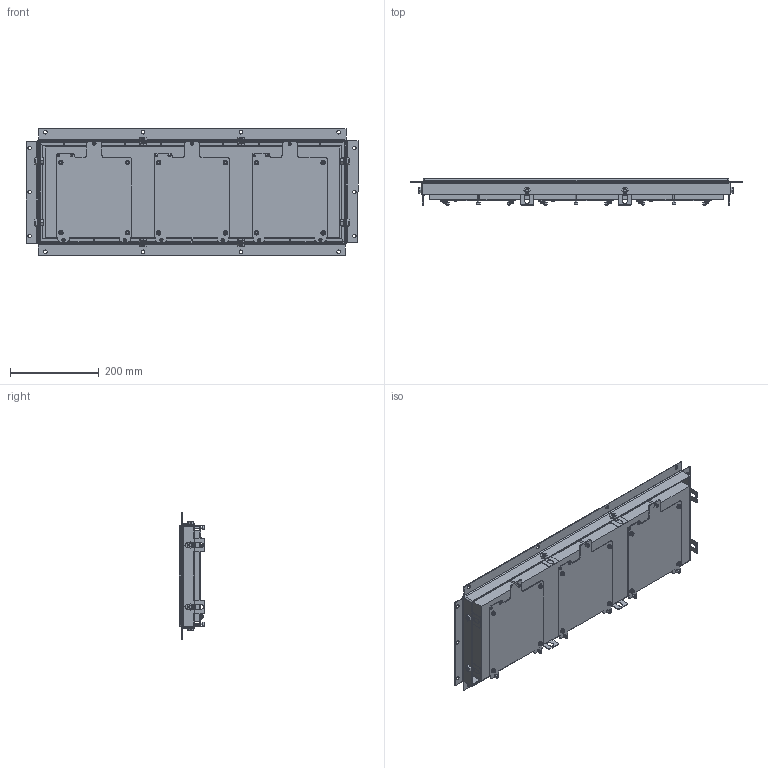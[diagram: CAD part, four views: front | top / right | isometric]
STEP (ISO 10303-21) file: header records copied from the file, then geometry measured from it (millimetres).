
FILE_DESCRIPTION (( 'STEP AP214' ), '1' );
FILE_NAME ('MS-I-30-SLC_120461.STEP', '2019-02-12T15:45:05', ( '' ), ( '' ), 'SwSTEP 2.0', 'SolidWorks 2018', '' );
FILE_SCHEMA (( 'AUTOMOTIVE_DESIGN' ));
Length unit declared in the file: millimetre
Products named in the file (1): MS-I-30-SLC_120461
Bounding box: 747 x 58.4 x 285 mm (x, y, z)
Volume: 6911552.7 mm3; surface area: 755872 mm2
Topology: 1 solids, 13 shells, 2599 faces, 6186 edges, 3840 vertices
Faces by surface type: cylinder 1076, plane 1011, cone 232, bspline 136, torus 132, sphere 12
Entity records: 88596 total; most frequent: CARTESIAN_POINT 26112, DIRECTION 12905, ORIENTED_EDGE 12244, EDGE_CURVE 6122, AXIS2_PLACEMENT_3D 5221, VERTEX_POINT 3840, EDGE_LOOP 3050, CIRCLE 2757
